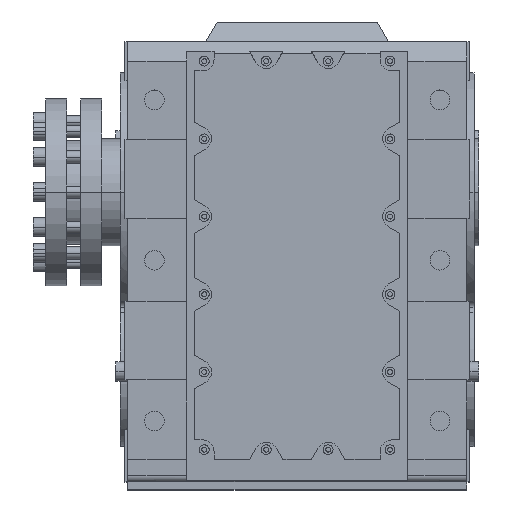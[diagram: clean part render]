
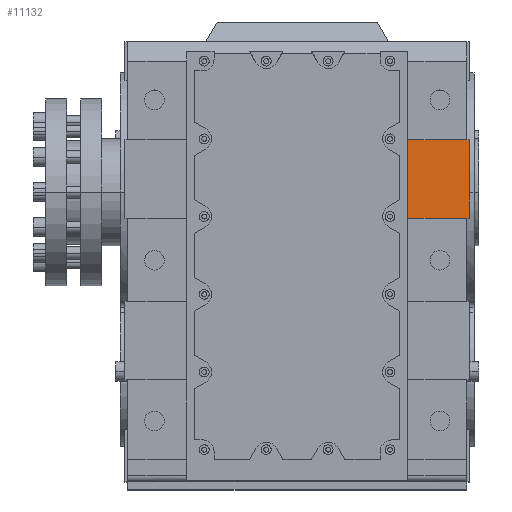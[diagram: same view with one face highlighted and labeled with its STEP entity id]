
A CAD part, top view. The second image highlights one B-rep face of the part: STEP entity #11132.
In plain terms, the highlighted planar face has unit normal (0, 0, 1).
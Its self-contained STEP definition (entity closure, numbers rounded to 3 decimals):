
#1389 = PLANE('',#1390);
#1390 = AXIS2_PLACEMENT_3D('',#1391,#1392,#1393);
#1391 = CARTESIAN_POINT('',(-290.,88.,315.));
#1392 = DIRECTION('',(0.,1.,0.));
#1393 = DIRECTION('',(0.,0.,1.));
#1449 = PLANE('',#1450);
#1450 = AXIS2_PLACEMENT_3D('',#1451,#1452,#1453);
#1451 = CARTESIAN_POINT('',(-290.,-44.,315.));
#1452 = DIRECTION('',(0.,-1.,0.));
#1453 = DIRECTION('',(0.,0.,-1.));
#2332 = PLANE('',#2333);
#2333 = AXIS2_PLACEMENT_3D('',#2334,#2335,#2336);
#2334 = CARTESIAN_POINT('',(290.,0.,0.));
#2335 = DIRECTION('',(1.,0.,0.));
#2336 = DIRECTION('',(0.,0.,-1.));
#5095 = VERTEX_POINT('',#5096);
#5096 = CARTESIAN_POINT('',(290.,-44.,302.5));
#5117 = EDGE_CURVE('',#5095,#5118,#5120,.T.);
#5118 = VERTEX_POINT('',#5119);
#5119 = CARTESIAN_POINT('',(285.,-44.,302.5));
#5120 = SURFACE_CURVE('',#5121,(#5125,#5132),.PCURVE_S1.);
#5121 = LINE('',#5122,#5123);
#5122 = CARTESIAN_POINT('',(186.,-44.,302.5));
#5123 = VECTOR('',#5124,1.);
#5124 = DIRECTION('',(-1.,0.,0.));
#5125 = PCURVE('',#1449,#5126);
#5126 = DEFINITIONAL_REPRESENTATION('',(#5127),#5131);
#5127 = LINE('',#5128,#5129);
#5128 = CARTESIAN_POINT('',(12.5,476.));
#5129 = VECTOR('',#5130,1.);
#5130 = DIRECTION('',(0.,-1.));
#5131 = ( GEOMETRIC_REPRESENTATION_CONTEXT(2) 
PARAMETRIC_REPRESENTATION_CONTEXT() REPRESENTATION_CONTEXT('2D SPACE',''
  ) );
#5132 = PCURVE('',#5133,#5138);
#5133 = PLANE('',#5134);
#5134 = AXIS2_PLACEMENT_3D('',#5135,#5136,#5137);
#5135 = CARTESIAN_POINT('',(-285.,-450.,302.5));
#5136 = DIRECTION('',(0.,0.,-1.));
#5137 = DIRECTION('',(-1.,0.,0.));
#5138 = DEFINITIONAL_REPRESENTATION('',(#5139),#5143);
#5139 = LINE('',#5140,#5141);
#5140 = CARTESIAN_POINT('',(-471.,406.));
#5141 = VECTOR('',#5142,1.);
#5142 = DIRECTION('',(1.,0.));
#5143 = ( GEOMETRIC_REPRESENTATION_CONTEXT(2) 
PARAMETRIC_REPRESENTATION_CONTEXT() REPRESENTATION_CONTEXT('2D SPACE',''
  ) );
#5203 = VERTEX_POINT('',#5204);
#5204 = CARTESIAN_POINT('',(285.,88.,302.5));
#5227 = EDGE_CURVE('',#5203,#5228,#5230,.T.);
#5228 = VERTEX_POINT('',#5229);
#5229 = CARTESIAN_POINT('',(290.,88.,302.5));
#5230 = SURFACE_CURVE('',#5231,(#5235,#5242),.PCURVE_S1.);
#5231 = LINE('',#5232,#5233);
#5232 = CARTESIAN_POINT('',(186.,88.,302.5));
#5233 = VECTOR('',#5234,1.);
#5234 = DIRECTION('',(1.,0.,0.));
#5235 = PCURVE('',#1389,#5236);
#5236 = DEFINITIONAL_REPRESENTATION('',(#5237),#5241);
#5237 = LINE('',#5238,#5239);
#5238 = CARTESIAN_POINT('',(-12.5,476.));
#5239 = VECTOR('',#5240,1.);
#5240 = DIRECTION('',(0.,1.));
#5241 = ( GEOMETRIC_REPRESENTATION_CONTEXT(2) 
PARAMETRIC_REPRESENTATION_CONTEXT() REPRESENTATION_CONTEXT('2D SPACE',''
  ) );
#5242 = PCURVE('',#5133,#5243);
#5243 = DEFINITIONAL_REPRESENTATION('',(#5244),#5248);
#5244 = LINE('',#5245,#5246);
#5245 = CARTESIAN_POINT('',(-471.,538.));
#5246 = VECTOR('',#5247,1.);
#5247 = DIRECTION('',(-1.,0.));
#5248 = ( GEOMETRIC_REPRESENTATION_CONTEXT(2) 
PARAMETRIC_REPRESENTATION_CONTEXT() REPRESENTATION_CONTEXT('2D SPACE',''
  ) );
#6405 = EDGE_CURVE('',#5228,#5095,#6406,.T.);
#6406 = SURFACE_CURVE('',#6407,(#6411,#6418),.PCURVE_S1.);
#6407 = LINE('',#6408,#6409);
#6408 = CARTESIAN_POINT('',(290.,0.,302.5));
#6409 = VECTOR('',#6410,1.);
#6410 = DIRECTION('',(0.,-1.,0.));
#6411 = PCURVE('',#2332,#6412);
#6412 = DEFINITIONAL_REPRESENTATION('',(#6413),#6417);
#6413 = LINE('',#6414,#6415);
#6414 = CARTESIAN_POINT('',(-302.5,0.));
#6415 = VECTOR('',#6416,1.);
#6416 = DIRECTION('',(0.,-1.));
#6417 = ( GEOMETRIC_REPRESENTATION_CONTEXT(2) 
PARAMETRIC_REPRESENTATION_CONTEXT() REPRESENTATION_CONTEXT('2D SPACE',''
  ) );
#6418 = PCURVE('',#5133,#6419);
#6419 = DEFINITIONAL_REPRESENTATION('',(#6420),#6424);
#6420 = LINE('',#6421,#6422);
#6421 = CARTESIAN_POINT('',(-575.,450.));
#6422 = VECTOR('',#6423,1.);
#6423 = DIRECTION('',(0.,-1.));
#6424 = ( GEOMETRIC_REPRESENTATION_CONTEXT(2) 
PARAMETRIC_REPRESENTATION_CONTEXT() REPRESENTATION_CONTEXT('2D SPACE',''
  ) );
#7603 = PLANE('',#7604);
#7604 = AXIS2_PLACEMENT_3D('',#7605,#7606,#7607);
#7605 = CARTESIAN_POINT('',(186.,88.,302.5));
#7606 = DIRECTION('',(0.,-1.,0.));
#7607 = DIRECTION('',(1.,0.,0.));
#8435 = PLANE('',#8436);
#8436 = AXIS2_PLACEMENT_3D('',#8437,#8438,#8439);
#8437 = CARTESIAN_POINT('',(186.,-316.,302.5));
#8438 = DIRECTION('',(-1.,0.,0.));
#8439 = DIRECTION('',(0.,0.,1.));
#11044 = PLANE('',#11045);
#11045 = AXIS2_PLACEMENT_3D('',#11046,#11047,#11048);
#11046 = CARTESIAN_POINT('',(186.,-44.,302.5));
#11047 = DIRECTION('',(0.,1.,0.));
#11048 = DIRECTION('',(-1.,0.,0.));
#11132 = ADVANCED_FACE('',(#11133),#5133,.F.);
#11133 = FACE_BOUND('',#11134,.T.);
#11134 = EDGE_LOOP('',(#11135,#11158,#11181,#11202,#11203,#11204));
#11135 = ORIENTED_EDGE('',*,*,#11136,.F.);
#11136 = EDGE_CURVE('',#11137,#5203,#11139,.T.);
#11137 = VERTEX_POINT('',#11138);
#11138 = CARTESIAN_POINT('',(186.,88.,302.5));
#11139 = SURFACE_CURVE('',#11140,(#11144,#11151),.PCURVE_S1.);
#11140 = LINE('',#11141,#11142);
#11141 = CARTESIAN_POINT('',(186.,88.,302.5));
#11142 = VECTOR('',#11143,1.);
#11143 = DIRECTION('',(1.,0.,0.));
#11144 = PCURVE('',#5133,#11145);
#11145 = DEFINITIONAL_REPRESENTATION('',(#11146),#11150);
#11146 = LINE('',#11147,#11148);
#11147 = CARTESIAN_POINT('',(-471.,538.));
#11148 = VECTOR('',#11149,1.);
#11149 = DIRECTION('',(-1.,0.));
#11150 = ( GEOMETRIC_REPRESENTATION_CONTEXT(2) 
PARAMETRIC_REPRESENTATION_CONTEXT() REPRESENTATION_CONTEXT('2D SPACE',''
  ) );
#11151 = PCURVE('',#7603,#11152);
#11152 = DEFINITIONAL_REPRESENTATION('',(#11153),#11157);
#11153 = LINE('',#11154,#11155);
#11154 = CARTESIAN_POINT('',(0.,0.));
#11155 = VECTOR('',#11156,1.);
#11156 = DIRECTION('',(1.,0.));
#11157 = ( GEOMETRIC_REPRESENTATION_CONTEXT(2) 
PARAMETRIC_REPRESENTATION_CONTEXT() REPRESENTATION_CONTEXT('2D SPACE',''
  ) );
#11158 = ORIENTED_EDGE('',*,*,#11159,.F.);
#11159 = EDGE_CURVE('',#11160,#11137,#11162,.T.);
#11160 = VERTEX_POINT('',#11161);
#11161 = CARTESIAN_POINT('',(186.,-44.,302.5));
#11162 = SURFACE_CURVE('',#11163,(#11167,#11174),.PCURVE_S1.);
#11163 = LINE('',#11164,#11165);
#11164 = CARTESIAN_POINT('',(186.,253.,302.5));
#11165 = VECTOR('',#11166,1.);
#11166 = DIRECTION('',(0.,1.,0.));
#11167 = PCURVE('',#5133,#11168);
#11168 = DEFINITIONAL_REPRESENTATION('',(#11169),#11173);
#11169 = LINE('',#11170,#11171);
#11170 = CARTESIAN_POINT('',(-471.,703.));
#11171 = VECTOR('',#11172,1.);
#11172 = DIRECTION('',(0.,1.));
#11173 = ( GEOMETRIC_REPRESENTATION_CONTEXT(2) 
PARAMETRIC_REPRESENTATION_CONTEXT() REPRESENTATION_CONTEXT('2D SPACE',''
  ) );
#11174 = PCURVE('',#8435,#11175);
#11175 = DEFINITIONAL_REPRESENTATION('',(#11176),#11180);
#11176 = LINE('',#11177,#11178);
#11177 = CARTESIAN_POINT('',(0.,569.));
#11178 = VECTOR('',#11179,1.);
#11179 = DIRECTION('',(0.,1.));
#11180 = ( GEOMETRIC_REPRESENTATION_CONTEXT(2) 
PARAMETRIC_REPRESENTATION_CONTEXT() REPRESENTATION_CONTEXT('2D SPACE',''
  ) );
#11181 = ORIENTED_EDGE('',*,*,#11182,.F.);
#11182 = EDGE_CURVE('',#5118,#11160,#11183,.T.);
#11183 = SURFACE_CURVE('',#11184,(#11188,#11195),.PCURVE_S1.);
#11184 = LINE('',#11185,#11186);
#11185 = CARTESIAN_POINT('',(186.,-44.,302.5));
#11186 = VECTOR('',#11187,1.);
#11187 = DIRECTION('',(-1.,0.,0.));
#11188 = PCURVE('',#5133,#11189);
#11189 = DEFINITIONAL_REPRESENTATION('',(#11190),#11194);
#11190 = LINE('',#11191,#11192);
#11191 = CARTESIAN_POINT('',(-471.,406.));
#11192 = VECTOR('',#11193,1.);
#11193 = DIRECTION('',(1.,0.));
#11194 = ( GEOMETRIC_REPRESENTATION_CONTEXT(2) 
PARAMETRIC_REPRESENTATION_CONTEXT() REPRESENTATION_CONTEXT('2D SPACE',''
  ) );
#11195 = PCURVE('',#11044,#11196);
#11196 = DEFINITIONAL_REPRESENTATION('',(#11197),#11201);
#11197 = LINE('',#11198,#11199);
#11198 = CARTESIAN_POINT('',(0.,0.));
#11199 = VECTOR('',#11200,1.);
#11200 = DIRECTION('',(1.,0.));
#11201 = ( GEOMETRIC_REPRESENTATION_CONTEXT(2) 
PARAMETRIC_REPRESENTATION_CONTEXT() REPRESENTATION_CONTEXT('2D SPACE',''
  ) );
#11202 = ORIENTED_EDGE('',*,*,#5117,.F.);
#11203 = ORIENTED_EDGE('',*,*,#6405,.F.);
#11204 = ORIENTED_EDGE('',*,*,#5227,.F.);
